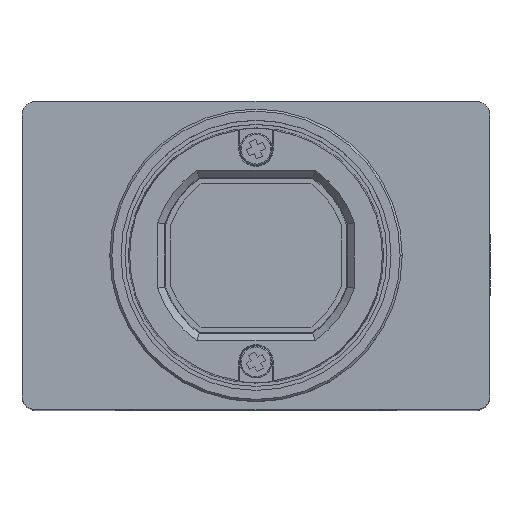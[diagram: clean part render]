
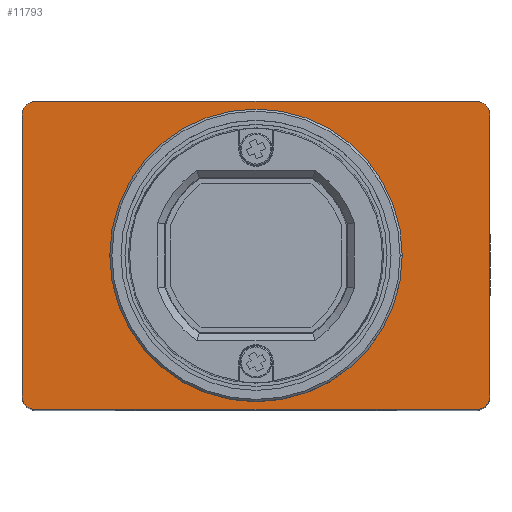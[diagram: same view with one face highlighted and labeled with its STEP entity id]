
A CAD part, top view. The second image highlights one B-rep face of the part: STEP entity #11793.
In plain terms, the highlighted planar face has unit normal (0, 0, 1).
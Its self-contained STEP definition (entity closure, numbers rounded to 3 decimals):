
#1 = EDGE_CURVE ( 'NONE', #8221, #12421, #3446, .T. ) ;
#563 = VECTOR ( 'NONE', #7632, 1000. ) ;
#834 = ORIENTED_EDGE ( 'NONE', *, *, #3172, .T. ) ;
#1064 = VERTEX_POINT ( 'NONE', #2464 ) ;
#1124 = ORIENTED_EDGE ( 'NONE', *, *, #6939, .T. ) ;
#1286 = LINE ( 'NONE', #9603, #3493 ) ;
#1375 = VERTEX_POINT ( 'NONE', #13362 ) ;
#1531 = AXIS2_PLACEMENT_3D ( 'NONE', #5971, #5954, #5927 ) ;
#1966 = AXIS2_PLACEMENT_3D ( 'NONE', #7855, #7839, #7824 ) ;
#2119 = ORIENTED_EDGE ( 'NONE', *, *, #7033, .T. ) ;
#2464 = CARTESIAN_POINT ( 'NONE',  ( -20.7, 14.5, 0. ) ) ;
#2545 = ORIENTED_EDGE ( 'NONE', *, *, #3624, .F. ) ;
#2931 = DIRECTION ( 'NONE',  ( -1., 0., 0. ) ) ;
#3044 = VERTEX_POINT ( 'NONE', #11835 ) ;
#3102 = DIRECTION ( 'NONE',  ( 0., 0., 1. ) ) ;
#3141 = EDGE_CURVE ( 'NONE', #5087, #11968, #10687, .T. ) ;
#3172 = EDGE_CURVE ( 'NONE', #12421, #1375, #7205, .T. ) ;
#3226 = CARTESIAN_POINT ( 'NONE',  ( -20.7, -13.2, 0. ) ) ;
#3446 = LINE ( 'NONE', #7646, #563 ) ;
#3493 = VECTOR ( 'NONE', #9588, 1000. ) ;
#3615 = CARTESIAN_POINT ( 'NONE',  ( -22., -13.2, 0. ) ) ;
#3624 = EDGE_CURVE ( 'NONE', #3655, #6376, #7190, .T. ) ;
#3627 = CARTESIAN_POINT ( 'NONE',  ( 22., 13.2, 0. ) ) ;
#3655 = VERTEX_POINT ( 'NONE', #6206 ) ;
#3703 = EDGE_CURVE ( 'NONE', #6376, #3655, #10301, .T. ) ;
#4122 = FACE_OUTER_BOUND ( 'NONE', #5019, .T. ) ;
#4224 = AXIS2_PLACEMENT_3D ( 'NONE', #4965, #4846, #4818 ) ;
#4447 = DIRECTION ( 'NONE',  ( -1., 0., 0. ) ) ;
#4721 = CARTESIAN_POINT ( 'NONE',  ( -20.7, 14.5, 0. ) ) ;
#4779 = EDGE_CURVE ( 'NONE', #11968, #8221, #10792, .T. ) ;
#4803 = VECTOR ( 'NONE', #4447, 1000. ) ;
#4818 = DIRECTION ( 'NONE',  ( -1., 0., 0. ) ) ;
#4846 = DIRECTION ( 'NONE',  ( 0., 0., -1. ) ) ;
#4877 = PLANE ( 'NONE',  #4224 ) ;
#4965 = CARTESIAN_POINT ( 'NONE',  ( -20.7, 13.2, 0. ) ) ;
#5019 = EDGE_LOOP ( 'NONE', ( #2119, #5248, #13540, #12581, #834, #1124, #10904, #10992 ) ) ;
#5087 = VERTEX_POINT ( 'NONE', #12256 ) ;
#5248 = ORIENTED_EDGE ( 'NONE', *, *, #3141, .T. ) ;
#5435 = DIRECTION ( 'NONE',  ( -1., 0., 0. ) ) ;
#5461 = DIRECTION ( 'NONE',  ( 0., 0., 1. ) ) ;
#5462 = CARTESIAN_POINT ( 'NONE',  ( 0., 0., 0. ) ) ;
#5927 = DIRECTION ( 'NONE',  ( -1., 0., 0. ) ) ;
#5954 = DIRECTION ( 'NONE',  ( 0., 0., 1. ) ) ;
#5971 = CARTESIAN_POINT ( 'NONE',  ( 20.7, 13.2, 0. ) ) ;
#6206 = CARTESIAN_POINT ( 'NONE',  ( 13.75, 0., 0. ) ) ;
#6226 = DIRECTION ( 'NONE',  ( -1., 0., 0. ) ) ;
#6241 = DIRECTION ( 'NONE',  ( 0., 0., 1. ) ) ;
#6260 = CARTESIAN_POINT ( 'NONE',  ( 0., 0., 0. ) ) ;
#6376 = VERTEX_POINT ( 'NONE', #10216 ) ;
#6939 = EDGE_CURVE ( 'NONE', #1375, #7766, #1286, .T. ) ;
#7015 = FACE_BOUND ( 'NONE', #9578, .T. ) ;
#7033 = EDGE_CURVE ( 'NONE', #1064, #5087, #13342, .T. ) ;
#7127 = EDGE_CURVE ( 'NONE', #7766, #3044, #11827, .T. ) ;
#7190 = CIRCLE ( 'NONE', #10576, 13.75 ) ;
#7201 = EDGE_CURVE ( 'NONE', #3044, #1064, #7730, .T. ) ;
#7205 = CIRCLE ( 'NONE', #11638, 1.3 ) ;
#7467 = CARTESIAN_POINT ( 'NONE',  ( -20.7, -14.5, 0. ) ) ;
#7632 = DIRECTION ( 'NONE',  ( 1., 0., 0. ) ) ;
#7646 = CARTESIAN_POINT ( 'NONE',  ( -20.7, -14.5, 0. ) ) ;
#7730 = LINE ( 'NONE', #4721, #4803 ) ;
#7766 = VERTEX_POINT ( 'NONE', #3627 ) ;
#7817 = AXIS2_PLACEMENT_3D ( 'NONE', #3226, #3102, #2931 ) ;
#7824 = DIRECTION ( 'NONE',  ( -1., 0., 0. ) ) ;
#7839 = DIRECTION ( 'NONE',  ( 0., 0., 1. ) ) ;
#7855 = CARTESIAN_POINT ( 'NONE',  ( -20.7, 13.2, 0. ) ) ;
#8221 = VERTEX_POINT ( 'NONE', #7467 ) ;
#9578 = EDGE_LOOP ( 'NONE', ( #12212, #2545 ) ) ;
#9588 = DIRECTION ( 'NONE',  ( 0., 1., 0. ) ) ;
#9603 = CARTESIAN_POINT ( 'NONE',  ( 22., -13.2, 0. ) ) ;
#10216 = CARTESIAN_POINT ( 'NONE',  ( -13.75, 0., 0. ) ) ;
#10218 = AXIS2_PLACEMENT_3D ( 'NONE', #5462, #5461, #5435 ) ;
#10301 = CIRCLE ( 'NONE', #10218, 13.75 ) ;
#10346 = DIRECTION ( 'NONE',  ( 1., 0., 0. ) ) ;
#10347 = DIRECTION ( 'NONE',  ( 0., 0., 1. ) ) ;
#10364 = CARTESIAN_POINT ( 'NONE',  ( 20.7, -13.2, 0. ) ) ;
#10576 = AXIS2_PLACEMENT_3D ( 'NONE', #6260, #6241, #6226 ) ;
#10687 = LINE ( 'NONE', #10802, #13011 ) ;
#10792 = CIRCLE ( 'NONE', #7817, 1.3 ) ;
#10802 = CARTESIAN_POINT ( 'NONE',  ( -22., -13.2, 0. ) ) ;
#10904 = ORIENTED_EDGE ( 'NONE', *, *, #7127, .T. ) ;
#10992 = ORIENTED_EDGE ( 'NONE', *, *, #7201, .T. ) ;
#11020 = DIRECTION ( 'NONE',  ( 0., -1., 0. ) ) ;
#11638 = AXIS2_PLACEMENT_3D ( 'NONE', #10364, #10347, #10346 ) ;
#11793 = ADVANCED_FACE ( 'NONE', ( #4122, #7015 ), #4877, .F. ) ;
#11827 = CIRCLE ( 'NONE', #1531, 1.3 ) ;
#11835 = CARTESIAN_POINT ( 'NONE',  ( 20.7, 14.5, 0. ) ) ;
#11968 = VERTEX_POINT ( 'NONE', #3615 ) ;
#12212 = ORIENTED_EDGE ( 'NONE', *, *, #3703, .F. ) ;
#12256 = CARTESIAN_POINT ( 'NONE',  ( -22., 13.2, 0. ) ) ;
#12421 = VERTEX_POINT ( 'NONE', #13216 ) ;
#12581 = ORIENTED_EDGE ( 'NONE', *, *, #1, .T. ) ;
#13011 = VECTOR ( 'NONE', #11020, 1000. ) ;
#13216 = CARTESIAN_POINT ( 'NONE',  ( 20.7, -14.5, 0. ) ) ;
#13342 = CIRCLE ( 'NONE', #1966, 1.3 ) ;
#13362 = CARTESIAN_POINT ( 'NONE',  ( 22., -13.2, 0. ) ) ;
#13540 = ORIENTED_EDGE ( 'NONE', *, *, #4779, .T. ) ;
